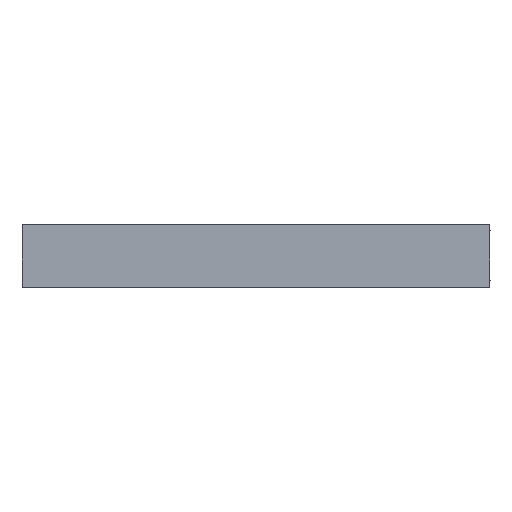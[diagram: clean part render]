
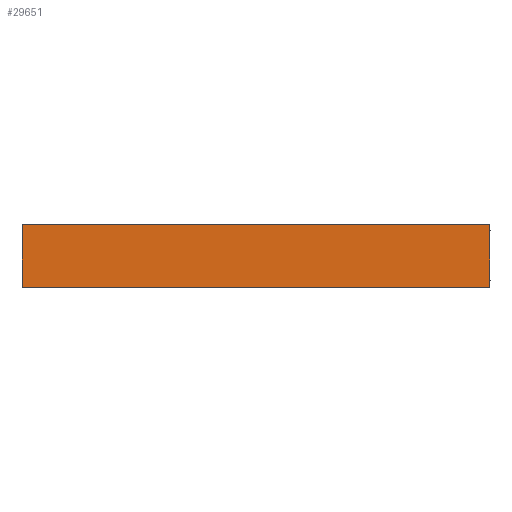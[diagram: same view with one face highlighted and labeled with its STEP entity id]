
A CAD part, top view. The second image highlights one B-rep face of the part: STEP entity #29651.
In plain terms, the highlighted planar face has unit normal (0, 0, 1).
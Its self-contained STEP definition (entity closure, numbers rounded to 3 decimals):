
#350 = EDGE_CURVE ( 'NONE', #35828, #4432, #17746, .T. ) ;
#679 = CARTESIAN_POINT ( 'NONE',  ( -150.5, -20., 8. ) ) ;
#1149 = DIRECTION ( 'NONE',  ( 0., -1., 0. ) ) ;
#2662 = CARTESIAN_POINT ( 'NONE',  ( 150.5, 20., 8. ) ) ;
#3985 = ORIENTED_EDGE ( 'NONE', *, *, #350, .T. ) ;
#4432 = VERTEX_POINT ( 'NONE', #679 ) ;
#6980 = EDGE_CURVE ( 'NONE', #4432, #22962, #10203, .T. ) ;
#9508 = CARTESIAN_POINT ( 'NONE',  ( -150.5, 20., 8. ) ) ;
#10203 = LINE ( 'NONE', #33687, #27764 ) ;
#12870 = VERTEX_POINT ( 'NONE', #2662 ) ;
#12928 = ORIENTED_EDGE ( 'NONE', *, *, #6980, .T. ) ;
#13994 = LINE ( 'NONE', #9508, #19358 ) ;
#14333 = ORIENTED_EDGE ( 'NONE', *, *, #28506, .T. ) ;
#14780 = FACE_OUTER_BOUND ( 'NONE', #38449, .T. ) ;
#15086 = AXIS2_PLACEMENT_3D ( 'NONE', #28404, #28848, #28186 ) ;
#16135 = VECTOR ( 'NONE', #37300, 1000. ) ;
#17746 = LINE ( 'NONE', #31593, #18069 ) ;
#18069 = VECTOR ( 'NONE', #1149, 1000. ) ;
#19358 = VECTOR ( 'NONE', #26957, 1000. ) ;
#22962 = VERTEX_POINT ( 'NONE', #32605 ) ;
#25053 = PLANE ( 'NONE',  #15086 ) ;
#26957 = DIRECTION ( 'NONE',  ( -1., 0., 0. ) ) ;
#27764 = VECTOR ( 'NONE', #44180, 1000. ) ;
#28186 = DIRECTION ( 'NONE',  ( 1., 0., 0. ) ) ;
#28404 = CARTESIAN_POINT ( 'NONE',  ( 0., 0., 8. ) ) ;
#28506 = EDGE_CURVE ( 'NONE', #12870, #35828, #13994, .T. ) ;
#28848 = DIRECTION ( 'NONE',  ( 0., 0., 1. ) ) ;
#29651 = ADVANCED_FACE ( 'NONE', ( #14780 ), #25053, .T. ) ;
#31593 = CARTESIAN_POINT ( 'NONE',  ( -150.5, 20., 8. ) ) ;
#32605 = CARTESIAN_POINT ( 'NONE',  ( 150.5, -20., 8. ) ) ;
#33687 = CARTESIAN_POINT ( 'NONE',  ( -150.5, -20., 8. ) ) ;
#33720 = LINE ( 'NONE', #40636, #16135 ) ;
#34376 = ORIENTED_EDGE ( 'NONE', *, *, #43761, .T. ) ;
#35828 = VERTEX_POINT ( 'NONE', #36099 ) ;
#36099 = CARTESIAN_POINT ( 'NONE',  ( -150.5, 20., 8. ) ) ;
#37300 = DIRECTION ( 'NONE',  ( 0., 1., 0. ) ) ;
#38449 = EDGE_LOOP ( 'NONE', ( #34376, #14333, #3985, #12928 ) ) ;
#40636 = CARTESIAN_POINT ( 'NONE',  ( 150.5, 20., 8. ) ) ;
#43761 = EDGE_CURVE ( 'NONE', #22962, #12870, #33720, .T. ) ;
#44180 = DIRECTION ( 'NONE',  ( 1., 0., 0. ) ) ;
